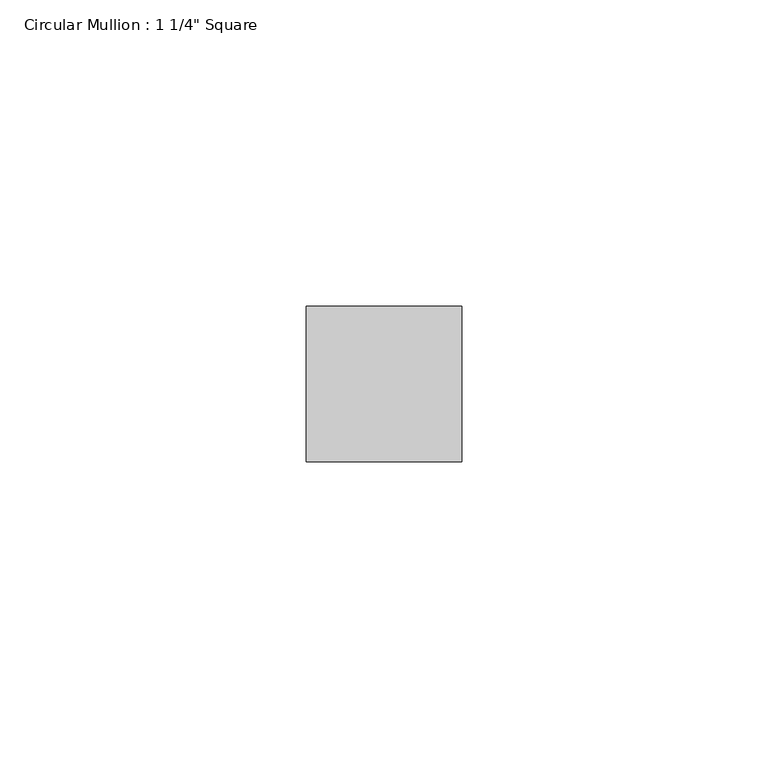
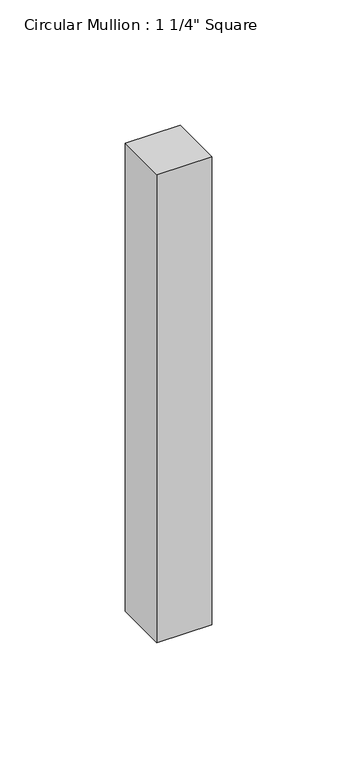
"""IFC4 building model written with IfcOpenShell, lengths in millimetres: member geometry."""

from ifc_helpers import new_model, si_unit, frame, origin, place, context, project, spatial, polyline, outline, extrude, source, transform, mapped, element, save


def member_41439c15(model_context):
    return source(origin(), model_context, "Body", "SweptSolid", [
        extrude(outline(polyline([(12.7, 12.7), (12.7, -12.7), (-12.7, -12.7), (-12.7, 12.7), (12.7, 12.7)])), frame((0.0, 0.0, -228.5999997), z_axis=(0.0, 0.0, 1.0), x_axis=(1.0, 0.0, 0.0)), (0.0, 0.0, 1.0), 228.5999997),
    ])


if __name__ == "__main__":
    model = new_model("IFC4")
    model_context = context("Model", 3, world=origin())
    ifc_project = project(units=[si_unit("LENGTHUNIT", "METRE", prefix="MILLI")], contexts=[model_context])
    site = spatial("IfcSite", under=ifc_project)
    building = spatial("IfcBuilding", under=site)
    placement = place(None, origin())
    member_shape = member_41439c15(model_context)
    element("IfcMember", 1, ObjectType="Circular Mullion : 1 1/4\" Square", at=placement, inside=building, context=model_context, shape_type="MappedRepresentation", body=[
        mapped(member_shape, transform((0.0, 0.0, 0.0), x_axis=(1.0, 0.0, 0.0), y_axis=(0.0, 1.0, 0.0), z_axis=(0.0, 0.0, 1.0))),
    ])
    save(model, "model.ifc")
